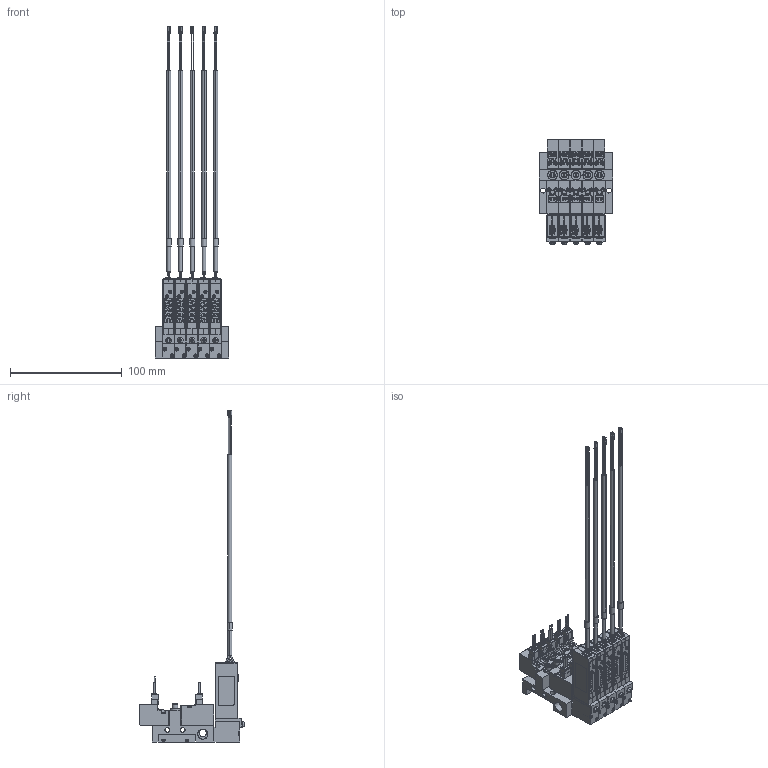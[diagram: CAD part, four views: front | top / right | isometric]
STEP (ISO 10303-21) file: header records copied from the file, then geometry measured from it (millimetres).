
FILE_DESCRIPTION(('STEP AP203'),'1');
FILE_NAME('2-NO(NC)-4EZ-M05-V9.stp','2025-05-09T00:51:30',(' '),(' '),'Spatial InterOp 3D',' ',' ');
FILE_SCHEMA(('CONFIG_CONTROL_DESIGN'));
Length unit declared in the file: millimetre
Products named in the file (147): PV1※2-NO(NC)-4EZ-M05-V9; BODY; PLATE; NEEDLE; BOLT; SOLENOID VALVE VOLTAGE PV; 42; 45; 48; 51; BRAKET(MPS-V9  PV용)NEW; BRAKET; MPS-V9AC.ics; __1; MPS-V9AC; MSBR-29_1; MSBR-28_1; MSBR-27_1; MSBR-26_1; MSBR-25_1; MSBR-24_1; MSBR-21_1; MSBR-7_1; MSBR-4_1; MSBR-1_1; SOLENOID VALVE VOLTAGE PV-NC2
Assembly tree (146 placements, depth 5):
  PV1※2-NO(NC)-4EZ-M05-V9
    BODY
    PLATE
    PLATE
    NEEDLE
    BOLT
    BOLT
    BOLT
    BOLT
    BOLT
    BOLT
    SOLENOID VALVE VOLTAGE PV
      42
      45
      48
      51
    NEEDLE
    SOLENOID VALVE VOLTAGE PV
      42
      45
      48
      51
    NEEDLE
    SOLENOID VALVE VOLTAGE PV
      42
      45
      48
      51
    PLATE
    BOLT
    BOLT
    BOLT
    PLATE
    BOLT
    BOLT
    BOLT
    NEEDLE
    SOLENOID VALVE VOLTAGE PV
      42
      45
      48
      51
    NEEDLE
    SOLENOID VALVE VOLTAGE PV
      42
      45
      48
      51
    PLATE
    BOLT
    BOLT
    BOLT
    BRAKET(MPS-V9  PV용)NEW
      BRAKET
      BOLT
      BOLT
      MPS-V9AC.ics
        __1
        MPS-V9AC
          MSBR-29_1
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Bounding box: 66 x 94.29 x 297.25 mm (x, y, z)
Volume: 142029.2 mm3; surface area: 121604.5 mm2
Topology: 121 solids, 166 shells, 6130 faces, 16662 edges, 11216 vertices
Faces by surface type: plane 4781, cylinder 1032, torus 115, bspline 75, cone 57, extrusion 50, sphere 20
Full cylindrical faces by diameter (mm): 1.4 x10, 2 x15, 2.3 x10, 2.5 x5, 3 x35, 3.5 x5, 4.2 x12, 4.5 x2, 5 x10, 6.5 x1, 8.797 x2, 9 x5
Entity records: 201180 total; most frequent: CARTESIAN_POINT 38689, ORIENTED_EDGE 32204, DIRECTION 31177, EDGE_CURVE 16292, VECTOR 12701, LINE 12651, VERTEX_POINT 11090, AXIS2_PLACEMENT_3D 9238
